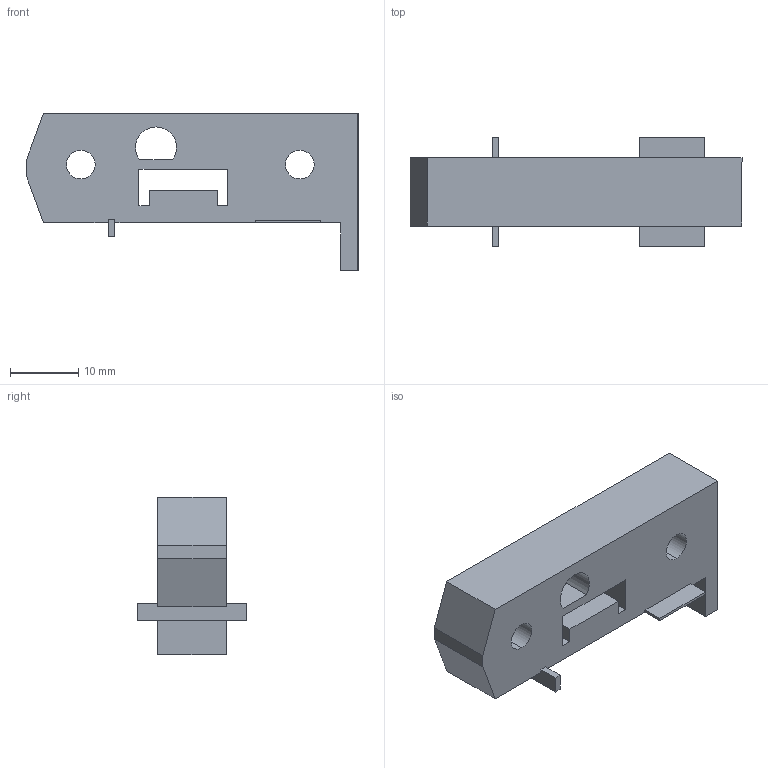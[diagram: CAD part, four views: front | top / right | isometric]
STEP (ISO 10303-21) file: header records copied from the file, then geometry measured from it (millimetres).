
FILE_DESCRIPTION (( 'STEP AP203' ), '1' );
FILE_NAME ('KU-Modell_Tablarhalter_Links.step', '2018-03-13T07:00:24', ( 'Windows-Benutzer' ), ( '' ), 'SwSTEP 2.0', 'SolidWorks 2017', '' );
FILE_SCHEMA (( 'CONFIG_CONTROL_DESIGN' ));
Length unit declared in the file: millimetre
Products named in the file (1): KU-Modell_Tablarhalter_Links
Bounding box: 48.5 x 16 x 23 mm (x, y, z)
Volume: 6830.9 mm3; surface area: 3803.2 mm2
Topology: 1 solids, 1 shells, 41 faces, 117 edges, 78 vertices
Faces by surface type: plane 35, cylinder 6
Entity records: 1416 total; most frequent: CARTESIAN_POINT 237, ORIENTED_EDGE 234, DIRECTION 213, EDGE_CURVE 117, LINE 105, VECTOR 105, VERTEX_POINT 78, AXIS2_PLACEMENT_3D 54
